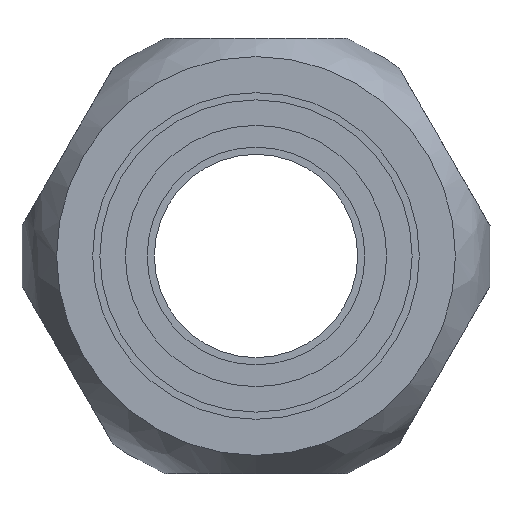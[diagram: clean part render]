
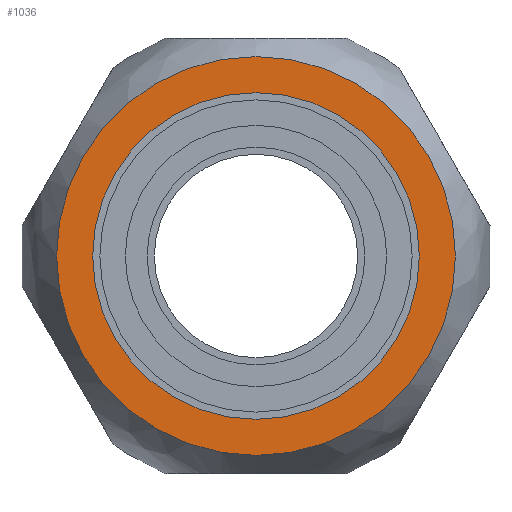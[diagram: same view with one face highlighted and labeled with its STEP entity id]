
A CAD part, left-side view. The second image highlights one B-rep face of the part: STEP entity #1036.
In plain terms, the highlighted planar face has unit normal (-1, 0, 0).
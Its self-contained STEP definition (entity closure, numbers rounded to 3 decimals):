
#100=FACE_BOUND('',#229,.T.);
#118=PLANE('',#1229);
#153=FACE_OUTER_BOUND('',#228,.T.);
#228=EDGE_LOOP('',(#797,#798));
#229=EDGE_LOOP('',(#799,#800));
#366=CIRCLE('',#1221,13.735);
#367=CIRCLE('',#1222,13.735);
#370=CIRCLE('',#1227,11.25);
#371=CIRCLE('',#1228,11.25);
#463=VERTEX_POINT('',#2159);
#464=VERTEX_POINT('',#2163);
#467=VERTEX_POINT('',#2172);
#468=VERTEX_POINT('',#2174);
#582=EDGE_CURVE('',#463,#464,#366,.T.);
#583=EDGE_CURVE('',#464,#463,#367,.T.);
#587=EDGE_CURVE('',#468,#467,#370,.T.);
#588=EDGE_CURVE('',#467,#468,#371,.T.);
#797=ORIENTED_EDGE('',*,*,#583,.F.);
#798=ORIENTED_EDGE('',*,*,#582,.F.);
#799=ORIENTED_EDGE('',*,*,#587,.T.);
#800=ORIENTED_EDGE('',*,*,#588,.T.);
#1036=ADVANCED_FACE('',(#153,#100),#118,.T.);
#1221=AXIS2_PLACEMENT_3D('',#2164,#1447,#1448);
#1222=AXIS2_PLACEMENT_3D('',#2165,#1449,#1450);
#1227=AXIS2_PLACEMENT_3D('',#2175,#1460,#1461);
#1228=AXIS2_PLACEMENT_3D('',#2176,#1462,#1463);
#1229=AXIS2_PLACEMENT_3D('',#2177,#1464,#1465);
#1447=DIRECTION('center_axis',(1.,0.,0.));
#1448=DIRECTION('ref_axis',(0.,1.,0.));
#1449=DIRECTION('center_axis',(1.,0.,0.));
#1450=DIRECTION('ref_axis',(0.,1.,0.));
#1460=DIRECTION('center_axis',(1.,0.,0.));
#1461=DIRECTION('ref_axis',(0.,1.,0.));
#1462=DIRECTION('center_axis',(1.,0.,0.));
#1463=DIRECTION('ref_axis',(0.,1.,0.));
#1464=DIRECTION('center_axis',(-1.,0.,0.));
#1465=DIRECTION('ref_axis',(0.,0.,1.));
#2159=CARTESIAN_POINT('',(0.,0.,13.735));
#2163=CARTESIAN_POINT('',(0.,13.735,0.));
#2164=CARTESIAN_POINT('Origin',(0.,0.,0.));
#2165=CARTESIAN_POINT('Origin',(0.,0.,0.));
#2172=CARTESIAN_POINT('',(0.,-11.25,0.));
#2174=CARTESIAN_POINT('',(0.,11.25,0.));
#2175=CARTESIAN_POINT('Origin',(0.,0.,0.));
#2176=CARTESIAN_POINT('Origin',(0.,0.,0.));
#2177=CARTESIAN_POINT('Origin',(0.,12.493,0.));
